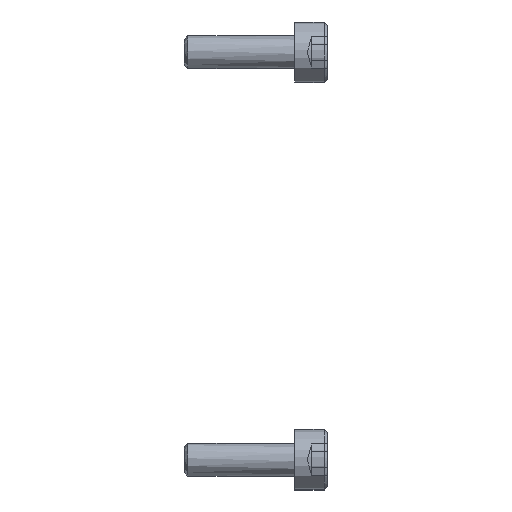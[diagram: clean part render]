
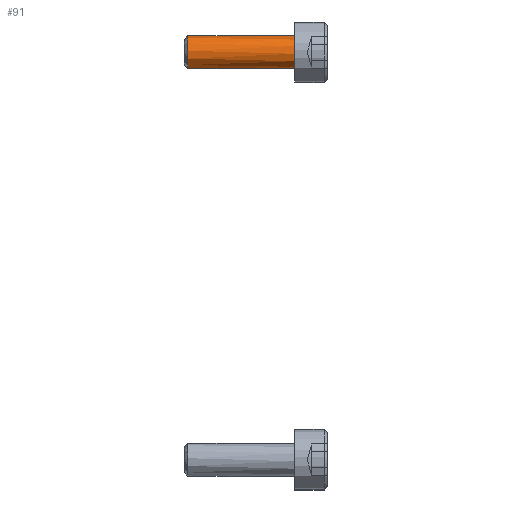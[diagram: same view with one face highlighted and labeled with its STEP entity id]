
A CAD part, left-side view. The second image highlights one B-rep face of the part: STEP entity #91.
In plain terms, the highlighted free-form (B-spline) face has degree [2, 1] with [9, 2] control points.
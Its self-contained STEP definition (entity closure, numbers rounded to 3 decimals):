
#91=ADVANCED_FACE('',(#166),#2233,.T.);
#166=FACE_OUTER_BOUND('',#243,.T.);
#243=EDGE_LOOP('',(#411,#412,#413,#414));
#411=ORIENTED_EDGE('',*,*,#1598,.T.);
#412=ORIENTED_EDGE('',*,*,#1599,.T.);
#413=ORIENTED_EDGE('',*,*,#1600,.T.);
#414=ORIENTED_EDGE('',*,*,#1601,.T.);
#658=(
BOUNDED_CURVE()
B_SPLINE_CURVE(2,(#3300,#3301,#3302,#3303,#3304),.UNSPECIFIED.,.F.,.F.)
B_SPLINE_CURVE_WITH_KNOTS((3,2,3),(0.,2.356,4.712),
 .UNSPECIFIED.)
CURVE()
GEOMETRIC_REPRESENTATION_ITEM()
RATIONAL_B_SPLINE_CURVE((1.,0.707,1.,0.707,1.))
REPRESENTATION_ITEM('')
);
#659=(
BOUNDED_CURVE()
B_SPLINE_CURVE(2,(#3311,#3312,#3313,#3314,#3315),.UNSPECIFIED.,.F.,.F.)
B_SPLINE_CURVE_WITH_KNOTS((3,2,3),(-4.712,-2.356,0.),
 .UNSPECIFIED.)
CURVE()
GEOMETRIC_REPRESENTATION_ITEM()
RATIONAL_B_SPLINE_CURVE((1.,0.707,1.,0.707,1.))
REPRESENTATION_ITEM('')
);
#686=(
BOUNDED_CURVE()
B_SPLINE_CURVE(2,(#3604,#3605,#3606,#3607,#3608),.UNSPECIFIED.,.F.,.F.)
B_SPLINE_CURVE_WITH_KNOTS((3,2,3),(-4.712,-2.356,0.),
 .UNSPECIFIED.)
CURVE()
GEOMETRIC_REPRESENTATION_ITEM()
RATIONAL_B_SPLINE_CURVE((1.,0.707,1.,0.707,1.))
REPRESENTATION_ITEM('')
);
#843=PCURVE('',#2233,#1167);
#844=PCURVE('',#2233,#1168);
#845=PCURVE('',#2233,#1169);
#846=PCURVE('',#2233,#1170);
#850=PCURVE('',#2234,#1174);
#919=PCURVE('',#2238,#1243);
#921=PCURVE('',#2238,#1245);
#926=PCURVE('',#2204,#1250);
#1167=DEFINITIONAL_REPRESENTATION('',(#1838),#4285);
#1168=DEFINITIONAL_REPRESENTATION('',(#1839),#4285);
#1169=DEFINITIONAL_REPRESENTATION('',(#1841),#4285);
#1170=DEFINITIONAL_REPRESENTATION('',(#1842),#4285);
#1174=DEFINITIONAL_REPRESENTATION('',(#1848),#4285);
#1243=DEFINITIONAL_REPRESENTATION('',(#1933),#4285);
#1245=DEFINITIONAL_REPRESENTATION('',(#1935),#4285);
#1250=DEFINITIONAL_REPRESENTATION('',(#686),#4285);
#1436=SURFACE_CURVE('',#1837,(#843,#919),.PCURVE_S1.);
#1437=SURFACE_CURVE('',#658,(#844,#850),.PCURVE_S1.);
#1438=SURFACE_CURVE('',#1840,(#845,#921),.PCURVE_S1.);
#1439=SURFACE_CURVE('',#659,(#846,#926),.PCURVE_S1.);
#1598=EDGE_CURVE('',#2116,#2117,#1436,.T.);
#1599=EDGE_CURVE('',#2117,#2118,#1437,.T.);
#1600=EDGE_CURVE('',#2118,#2119,#1438,.T.);
#1601=EDGE_CURVE('',#2119,#2116,#1439,.T.);
#1837=B_SPLINE_CURVE_WITH_KNOTS('',1,(#3296,#3297),.UNSPECIFIED.,.F.,.F.,
(2,2),(-9.694,0.),.UNSPECIFIED.);
#1838=B_SPLINE_CURVE_WITH_KNOTS('',1,(#3298,#3299),.UNSPECIFIED.,.F.,.F.,
(2,2),(-9.694,0.),.UNSPECIFIED.);
#1839=B_SPLINE_CURVE_WITH_KNOTS('',1,(#3305,#3306),.UNSPECIFIED.,.F.,.F.,
(2,2),(0.,4.712),.UNSPECIFIED.);
#1840=B_SPLINE_CURVE_WITH_KNOTS('',1,(#3307,#3308),.UNSPECIFIED.,.F.,.F.,
(2,2),(-9.694,0.),.UNSPECIFIED.);
#1841=B_SPLINE_CURVE_WITH_KNOTS('',1,(#3309,#3310),.UNSPECIFIED.,.F.,.F.,
(2,2),(-9.694,0.),.UNSPECIFIED.);
#1842=B_SPLINE_CURVE_WITH_KNOTS('',1,(#3316,#3317),.UNSPECIFIED.,.F.,.F.,
(2,2),(-4.712,0.),.UNSPECIFIED.);
#1848=B_SPLINE_CURVE_WITH_KNOTS('',1,(#3333,#3334),.UNSPECIFIED.,.F.,.F.,
(2,2),(0.,4.712),.UNSPECIFIED.);
#1933=B_SPLINE_CURVE_WITH_KNOTS('',1,(#3571,#3572),.UNSPECIFIED.,.F.,.F.,
(2,2),(-9.694,0.),.UNSPECIFIED.);
#1935=B_SPLINE_CURVE_WITH_KNOTS('',1,(#3580,#3581),.UNSPECIFIED.,.F.,.F.,
(2,2),(-9.694,0.),.UNSPECIFIED.);
#2116=VERTEX_POINT('',#3230);
#2117=VERTEX_POINT('',#3231);
#2118=VERTEX_POINT('',#3232);
#2119=VERTEX_POINT('',#3233);
#2204=PLANE('',#2324);
#2233=(
BOUNDED_SURFACE()
B_SPLINE_SURFACE(2,1,((#3065,#3066),(#3067,#3068),(#3069,#3070),(#3071,#3072),
(#3073,#3074),(#3075,#3076),(#3077,#3078),(#3079,#3080),(#3081,#3082)),
 .UNSPECIFIED.,.T.,.F.,.F.)
B_SPLINE_SURFACE_WITH_KNOTS((3,2,2,2,3),(2,2),(0.,1.571,3.142,
4.712,6.283),(0.,11.635),.UNSPECIFIED.)
GEOMETRIC_REPRESENTATION_ITEM()
RATIONAL_B_SPLINE_SURFACE(((1.,1.),(0.707,0.707),
(1.,1.),(0.707,0.707),(1.,1.),(0.707,
0.707),(1.,1.),(0.707,0.707),(1.,1.)))
REPRESENTATION_ITEM('')
SURFACE()
);
#2234=(
BOUNDED_SURFACE()
B_SPLINE_SURFACE(2,1,((#3083,#3084),(#3085,#3086),(#3087,#3088),(#3089,#3090),
(#3091,#3092),(#3093,#3094),(#3095,#3096),(#3097,#3098),(#3099,#3100)),
 .UNSPECIFIED.,.T.,.F.,.F.)
B_SPLINE_SURFACE_WITH_KNOTS((3,2,2,2,3),(2,2),(0.,1.571,3.142,
4.712,6.283),(0.,2.335),.UNSPECIFIED.)
GEOMETRIC_REPRESENTATION_ITEM()
RATIONAL_B_SPLINE_SURFACE(((1.,1.),(0.707,0.707),
(1.,1.),(0.707,0.707),(1.,1.),(0.707,
0.707),(1.,1.),(0.707,0.707),(1.,1.)))
REPRESENTATION_ITEM('')
SURFACE()
);
#2238=(
BOUNDED_SURFACE()
B_SPLINE_SURFACE(2,1,((#3168,#3169),(#3170,#3171),(#3172,#3173),(#3174,#3175),
(#3176,#3177),(#3178,#3179),(#3180,#3181),(#3182,#3183),(#3184,#3185)),
 .UNSPECIFIED.,.T.,.F.,.F.)
B_SPLINE_SURFACE_WITH_KNOTS((3,2,2,2,3),(2,2),(0.,1.571,3.142,
4.712,6.283),(0.,11.635),.UNSPECIFIED.)
GEOMETRIC_REPRESENTATION_ITEM()
RATIONAL_B_SPLINE_SURFACE(((1.,1.),(0.707,0.707),
(1.,1.),(0.707,0.707),(1.,1.),(0.707,
0.707),(1.,1.),(0.707,0.707),(1.,1.)))
REPRESENTATION_ITEM('')
SURFACE()
);
#2324=AXIS2_PLACEMENT_3D('',#3186,#2379,$);
#2379=DIRECTION('',(0.,-1.,0.));
#3065=CARTESIAN_POINT('',(-793.5,337.429,90.));
#3066=CARTESIAN_POINT('',(-793.5,349.064,90.));
#3067=CARTESIAN_POINT('',(-793.5,337.429,91.5));
#3068=CARTESIAN_POINT('',(-793.5,349.064,91.5));
#3069=CARTESIAN_POINT('',(-795.,337.429,91.5));
#3070=CARTESIAN_POINT('',(-795.,349.064,91.5));
#3071=CARTESIAN_POINT('',(-796.5,337.429,91.5));
#3072=CARTESIAN_POINT('',(-796.5,349.064,91.5));
#3073=CARTESIAN_POINT('',(-796.5,337.429,90.));
#3074=CARTESIAN_POINT('',(-796.5,349.064,90.));
#3075=CARTESIAN_POINT('',(-796.5,337.429,88.5));
#3076=CARTESIAN_POINT('',(-796.5,349.064,88.5));
#3077=CARTESIAN_POINT('',(-795.,337.429,88.5));
#3078=CARTESIAN_POINT('',(-795.,349.064,88.5));
#3079=CARTESIAN_POINT('',(-793.5,337.429,88.5));
#3080=CARTESIAN_POINT('',(-793.5,349.064,88.5));
#3081=CARTESIAN_POINT('',(-793.5,337.429,90.));
#3082=CARTESIAN_POINT('',(-793.5,349.064,90.));
#3083=CARTESIAN_POINT('',(-795.,349.594,90.));
#3084=CARTESIAN_POINT('',(-793.349,347.942,90.));
#3085=CARTESIAN_POINT('',(-795.,349.594,90.));
#3086=CARTESIAN_POINT('',(-793.349,347.942,88.349));
#3087=CARTESIAN_POINT('',(-795.,349.594,90.));
#3088=CARTESIAN_POINT('',(-795.,347.942,88.349));
#3089=CARTESIAN_POINT('',(-795.,349.594,90.));
#3090=CARTESIAN_POINT('',(-796.651,347.942,88.349));
#3091=CARTESIAN_POINT('',(-795.,349.594,90.));
#3092=CARTESIAN_POINT('',(-796.651,347.942,90.));
#3093=CARTESIAN_POINT('',(-795.,349.594,90.));
#3094=CARTESIAN_POINT('',(-796.651,347.942,91.651));
#3095=CARTESIAN_POINT('',(-795.,349.594,90.));
#3096=CARTESIAN_POINT('',(-795.,347.942,91.651));
#3097=CARTESIAN_POINT('',(-795.,349.594,90.));
#3098=CARTESIAN_POINT('',(-793.349,347.942,91.651));
#3099=CARTESIAN_POINT('',(-795.,349.594,90.));
#3100=CARTESIAN_POINT('',(-793.349,347.942,90.));
#3168=CARTESIAN_POINT('',(-796.5,337.429,90.));
#3169=CARTESIAN_POINT('',(-796.5,349.064,90.));
#3170=CARTESIAN_POINT('',(-796.5,337.429,88.5));
#3171=CARTESIAN_POINT('',(-796.5,349.064,88.5));
#3172=CARTESIAN_POINT('',(-795.,337.429,88.5));
#3173=CARTESIAN_POINT('',(-795.,349.064,88.5));
#3174=CARTESIAN_POINT('',(-793.5,337.429,88.5));
#3175=CARTESIAN_POINT('',(-793.5,349.064,88.5));
#3176=CARTESIAN_POINT('',(-793.5,337.429,90.));
#3177=CARTESIAN_POINT('',(-793.5,349.064,90.));
#3178=CARTESIAN_POINT('',(-793.5,337.429,91.5));
#3179=CARTESIAN_POINT('',(-793.5,349.064,91.5));
#3180=CARTESIAN_POINT('',(-795.,337.429,91.5));
#3181=CARTESIAN_POINT('',(-795.,349.064,91.5));
#3182=CARTESIAN_POINT('',(-796.5,337.429,91.5));
#3183=CARTESIAN_POINT('',(-796.5,349.064,91.5));
#3184=CARTESIAN_POINT('',(-796.5,337.429,90.));
#3185=CARTESIAN_POINT('',(-796.5,349.064,90.));
#3186=CARTESIAN_POINT('',(-791.699,338.4,86.699));
#3230=CARTESIAN_POINT('',(-795.,338.4,88.5));
#3231=CARTESIAN_POINT('',(-795.,348.094,88.5));
#3232=CARTESIAN_POINT('',(-795.,348.094,91.5));
#3233=CARTESIAN_POINT('',(-795.,338.4,91.5));
#3296=CARTESIAN_POINT('',(-795.,338.4,88.5));
#3297=CARTESIAN_POINT('',(-795.,348.094,88.5));
#3298=CARTESIAN_POINT('',(4.712,0.971));
#3299=CARTESIAN_POINT('',(4.712,10.664));
#3300=CARTESIAN_POINT('',(-795.,348.094,88.5));
#3301=CARTESIAN_POINT('',(-796.5,348.094,88.5));
#3302=CARTESIAN_POINT('',(-796.5,348.094,90.));
#3303=CARTESIAN_POINT('',(-796.5,348.094,91.5));
#3304=CARTESIAN_POINT('',(-795.,348.094,91.5));
#3305=CARTESIAN_POINT('',(4.712,10.664));
#3306=CARTESIAN_POINT('',(1.571,10.664));
#3307=CARTESIAN_POINT('',(-795.,348.094,91.5));
#3308=CARTESIAN_POINT('',(-795.,338.4,91.5));
#3309=CARTESIAN_POINT('',(1.571,10.664));
#3310=CARTESIAN_POINT('',(1.571,0.971));
#3311=CARTESIAN_POINT('',(-795.,338.4,91.5));
#3312=CARTESIAN_POINT('',(-796.5,338.4,91.5));
#3313=CARTESIAN_POINT('',(-796.5,338.4,90.));
#3314=CARTESIAN_POINT('',(-796.5,338.4,88.5));
#3315=CARTESIAN_POINT('',(-795.,338.4,88.5));
#3316=CARTESIAN_POINT('',(1.571,0.971));
#3317=CARTESIAN_POINT('',(4.712,0.971));
#3333=CARTESIAN_POINT('',(1.571,2.121));
#3334=CARTESIAN_POINT('',(4.712,2.121));
#3571=CARTESIAN_POINT('',(1.571,0.971));
#3572=CARTESIAN_POINT('',(1.571,10.664));
#3580=CARTESIAN_POINT('',(4.712,10.664));
#3581=CARTESIAN_POINT('',(4.712,0.971));
#3604=CARTESIAN_POINT('',(3.625,0.));
#3605=CARTESIAN_POINT('',(3.625,1.5));
#3606=CARTESIAN_POINT('',(2.125,1.5));
#3607=CARTESIAN_POINT('',(0.625,1.5));
#3608=CARTESIAN_POINT('',(0.625,0.));
#4285=(
GEOMETRIC_REPRESENTATION_CONTEXT(2)
PARAMETRIC_REPRESENTATION_CONTEXT()
REPRESENTATION_CONTEXT('pspace','')
);
